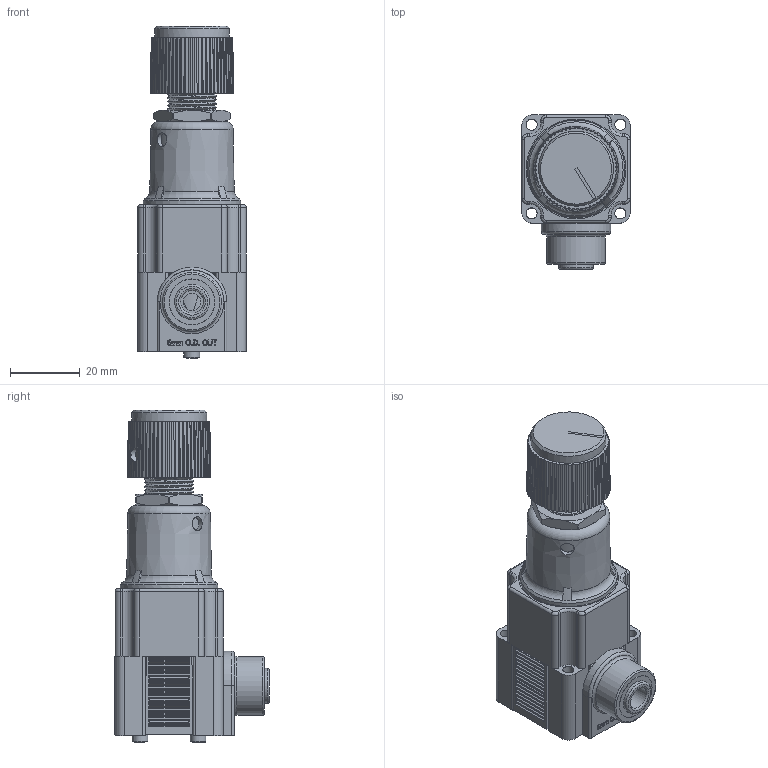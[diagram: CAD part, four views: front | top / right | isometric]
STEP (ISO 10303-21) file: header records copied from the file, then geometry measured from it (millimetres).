
FILE_DESCRIPTION(/* description */ (''),/* implementation_level */ '2;1');
FILE_NAME(/* name */ 'K:\Normteile INVENTOR\Air-Logic\Regulators\R6000\R 6___ 8 Push-In Fitting for 6mm O.D. Tube Out.igs.ipt.stp',/* time_stamp */ '2020-05-27T10:57:53+02:00',/* author */ ('Paul'),/* organization */ (''),/* preprocessor_version */ 'ST-DEVELOPER v18',/* originating_system */ 'Autodesk Inventor 2020',/* authorisation */ '');
FILE_SCHEMA (('AUTOMOTIVE_DESIGN { 1 0 10303 214 3 1 1 }'));
Length unit declared in the file: inch
Products named in the file (1): R 6___ 8 Push-In Fitting for 6mm O.D. Tube Out.igs
Bounding box: 31.19 x 44.31 x 95.02 mm (x, y, z)
Volume: 58952.8 mm3; surface area: 19241.7 mm2
Topology: 1 solids, 1 shells, 1111 faces, 2891 edges, 1871 vertices
Faces by surface type: plane 530, cylinder 352, bspline 110, cone 83, torus 36
Full cylindrical faces by diameter (mm): 1.194 x1, 2.032 x1, 3.124 x2, 3.175 x8, 3.988 x1, 4.064 x1, 4.521 x2, 4.953 x1, 6.553 x1, 8.382 x2, 9.169 x1, 9.398 x1, 10.033 x1, 12.903 x1, 13.081 x1, 13.157 x1, 16.764 x1, 19.406 x1, 21.476 x1, 27.94 x1, 28.575 x1
Entity records: 40998 total; most frequent: CARTESIAN_POINT 12550, ORIENTED_EDGE 5782, DIRECTION 5673, EDGE_CURVE 2891, AXIS2_PLACEMENT_3D 2141, VERTEX_POINT 1871, LINE 1391, VECTOR 1391
